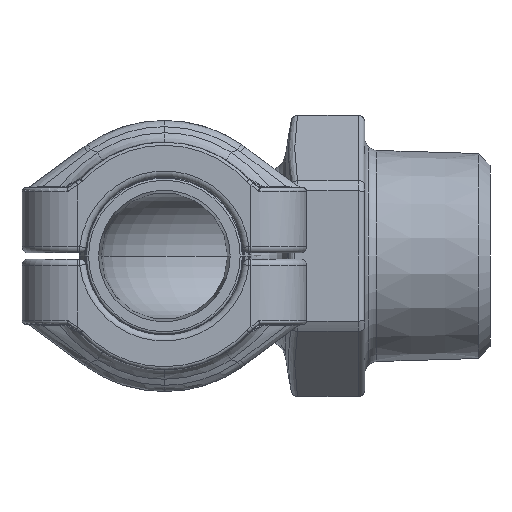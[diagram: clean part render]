
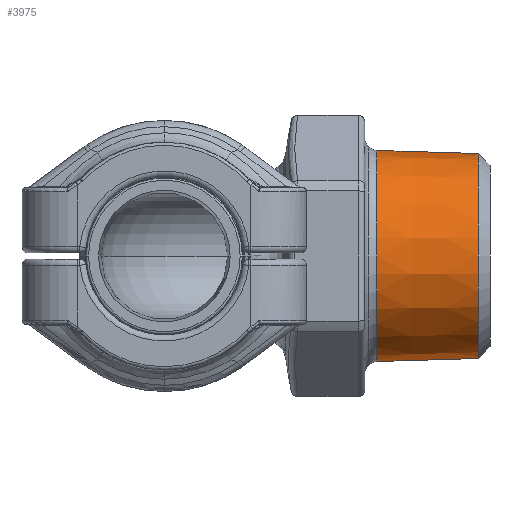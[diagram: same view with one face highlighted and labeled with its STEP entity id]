
A CAD part, front view. The second image highlights one B-rep face of the part: STEP entity #3975.
In plain terms, the highlighted conical face has half-angle 1.725 degrees and reference radius 16.804 mm.
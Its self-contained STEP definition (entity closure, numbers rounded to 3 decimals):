
#1716=CARTESIAN_POINT('',(50.735,0.,0.));
#1717=DIRECTION('',(1.,0.,0.));
#1718=DIRECTION('',(0.,0.,1.));
#1719=AXIS2_PLACEMENT_3D('',#1716,#1717,#1718);
#1731=DIRECTION('',(-1.,0.,-0.03));
#1732=VECTOR('',#1731,16.398);
#1733=CARTESIAN_POINT('',(50.735,0.,-16.557));
#1734=LINE('',#1733,#1732);
#1738=DIRECTION('',(-1.,0.,0.03));
#1739=VECTOR('',#1738,16.398);
#1740=CARTESIAN_POINT('',(50.735,0.,16.557));
#1741=LINE('',#1740,#1739);
#1745=CARTESIAN_POINT('',(34.344,0.,0.));
#1746=DIRECTION('',(-1.,0.,0.));
#1747=DIRECTION('',(0.,0.,-1.));
#1748=AXIS2_PLACEMENT_3D('',#1745,#1746,#1747);
#1916=CARTESIAN_POINT('',(34.344,0.,17.051));
#1918=VERTEX_POINT('',#1916);
#1922=CARTESIAN_POINT('',(34.344,0.,-17.051));
#1923=VERTEX_POINT('',#1922);
#1928=CARTESIAN_POINT('',(50.735,0.,16.557));
#1929=VERTEX_POINT('',#1928);
#1930=CARTESIAN_POINT('',(50.735,0.,-16.557));
#1931=VERTEX_POINT('',#1930);
#3963=CARTESIAN_POINT('',(42.539,0.,0.));
#3964=DIRECTION('',(-1.,0.,0.));
#3965=DIRECTION('',(0.,0.,1.));
#3966=AXIS2_PLACEMENT_3D('',#3963,#3964,#3965);
#3967=CONICAL_SURFACE('',#3966,16.804,1.725);
#3968=ORIENTED_EDGE('',*,*,#3957,.T.);
#3969=ORIENTED_EDGE('',*,*,#2692,.T.);
#3971=ORIENTED_EDGE('',*,*,#3970,.T.);
#3972=ORIENTED_EDGE('',*,*,#2689,.F.);
#3973=EDGE_LOOP('',(#3968,#3969,#3971,#3972));
#3974=FACE_OUTER_BOUND('',#3973,.F.);
#1720=CIRCLE('',#1719,16.557);
#1749=CIRCLE('',#1748,17.051);
#2689=EDGE_CURVE('',#1929,#1918,#1741,.T.);
#2692=EDGE_CURVE('',#1931,#1923,#1734,.T.);
#3957=EDGE_CURVE('',#1929,#1931,#1720,.T.);
#3970=EDGE_CURVE('',#1923,#1918,#1749,.T.);
#3975=ADVANCED_FACE('',(#3974),#3967,.T.);
